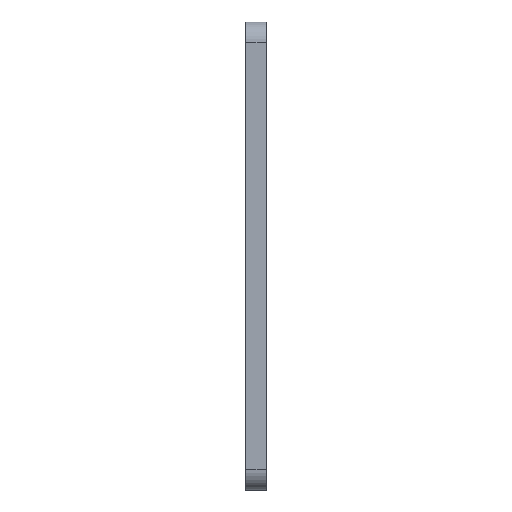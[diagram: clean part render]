
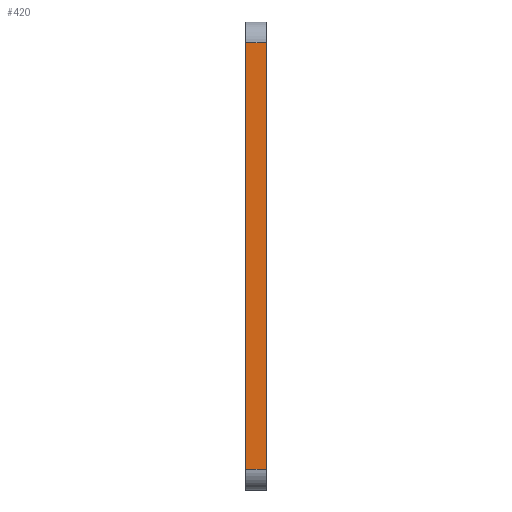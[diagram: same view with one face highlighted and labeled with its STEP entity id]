
A CAD part, left-side view. The second image highlights one B-rep face of the part: STEP entity #420.
In plain terms, the highlighted planar face has unit normal (-1, 0, 0).
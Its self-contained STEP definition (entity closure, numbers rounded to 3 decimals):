
#43 = CARTESIAN_POINT ( 'NONE',  ( -28., 0., 40.5 ) ) ;
#48 = EDGE_CURVE ( 'NONE', #842, #401, #140, .T. ) ;
#57 = DIRECTION ( 'NONE',  ( -1., 0., 0. ) ) ;
#63 = EDGE_CURVE ( 'NONE', #401, #869, #853, .T. ) ;
#71 = VECTOR ( 'NONE', #462, 1000. ) ;
#140 = LINE ( 'NONE', #391, #280 ) ;
#197 = DIRECTION ( 'NONE',  ( 0., 0., 1. ) ) ;
#213 = ORIENTED_EDGE ( 'NONE', *, *, #48, .T. ) ;
#224 = EDGE_CURVE ( 'NONE', #328, #869, #811, .T. ) ;
#249 = CARTESIAN_POINT ( 'NONE',  ( -28., 0., -10.5 ) ) ;
#262 = ORIENTED_EDGE ( 'NONE', *, *, #364, .T. ) ;
#263 = DIRECTION ( 'NONE',  ( 0., 0., 1. ) ) ;
#265 = CARTESIAN_POINT ( 'NONE',  ( -28., 0., -13. ) ) ;
#280 = VECTOR ( 'NONE', #197, 1000. ) ;
#315 = CARTESIAN_POINT ( 'NONE',  ( -28., 2.5, -10.5 ) ) ;
#327 = CARTESIAN_POINT ( 'NONE',  ( -28., 0., 40.5 ) ) ;
#328 = VERTEX_POINT ( 'NONE', #315 ) ;
#364 = EDGE_CURVE ( 'NONE', #328, #842, #436, .T. ) ;
#391 = CARTESIAN_POINT ( 'NONE',  ( -28., 0., -13. ) ) ;
#401 = VERTEX_POINT ( 'NONE', #43 ) ;
#420 = ADVANCED_FACE ( 'NONE', ( #597 ), #666, .T. ) ;
#428 = CARTESIAN_POINT ( 'NONE',  ( -28., 2.5, -13. ) ) ;
#436 = LINE ( 'NONE', #528, #71 ) ;
#462 = DIRECTION ( 'NONE',  ( 0., -1., 0. ) ) ;
#484 = CARTESIAN_POINT ( 'NONE',  ( -28., 2.5, 40.5 ) ) ;
#502 = DIRECTION ( 'NONE',  ( 0., 0., 1. ) ) ;
#528 = CARTESIAN_POINT ( 'NONE',  ( -28., 0., -10.5 ) ) ;
#560 = AXIS2_PLACEMENT_3D ( 'NONE', #265, #57, #263 ) ;
#569 = VECTOR ( 'NONE', #502, 1000. ) ;
#597 = FACE_OUTER_BOUND ( 'NONE', #608, .T. ) ;
#602 = DIRECTION ( 'NONE',  ( 0., 1., 0. ) ) ;
#608 = EDGE_LOOP ( 'NONE', ( #213, #670, #746, #262 ) ) ;
#666 = PLANE ( 'NONE',  #560 ) ;
#670 = ORIENTED_EDGE ( 'NONE', *, *, #63, .T. ) ;
#736 = VECTOR ( 'NONE', #602, 1000. ) ;
#746 = ORIENTED_EDGE ( 'NONE', *, *, #224, .F. ) ;
#811 = LINE ( 'NONE', #428, #569 ) ;
#842 = VERTEX_POINT ( 'NONE', #249 ) ;
#853 = LINE ( 'NONE', #327, #736 ) ;
#869 = VERTEX_POINT ( 'NONE', #484 ) ;
